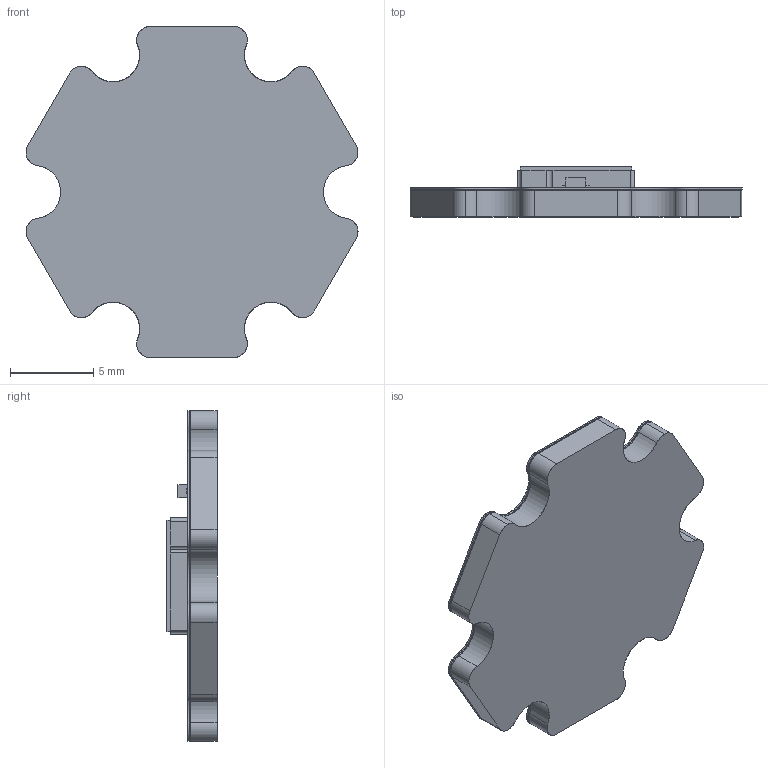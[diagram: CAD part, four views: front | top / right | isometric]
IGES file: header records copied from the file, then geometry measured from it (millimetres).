
Start section: SolidWorks IGES file using analytic representation for surfaces
Global section: file name: C:\P-Gold\Projects\MCPCBs\For_07x07_04die_LZ4\1900-0082-BGQ\Apps(LZ4-4xxx00)\LZ4-4xxx00-P3_RevC3.IGS; native system: SolidWorks 2014; preprocessor: SolidWorks 2014; author: dadebiyi; date: 151130.172416; units: millimetre
Bounding box: 19.96 x 3.01 x 19.9 mm (x, y, z)
Surface area: 2209.8 mm2 (no closed solid volume)
Topology: 0 solids, 0 shells, 719 faces, 6172 edges, 6172 vertices
Faces by surface type: bspline 545, revolution 174
